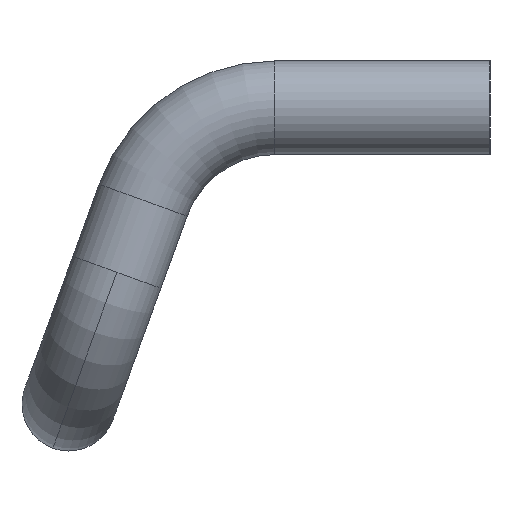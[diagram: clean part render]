
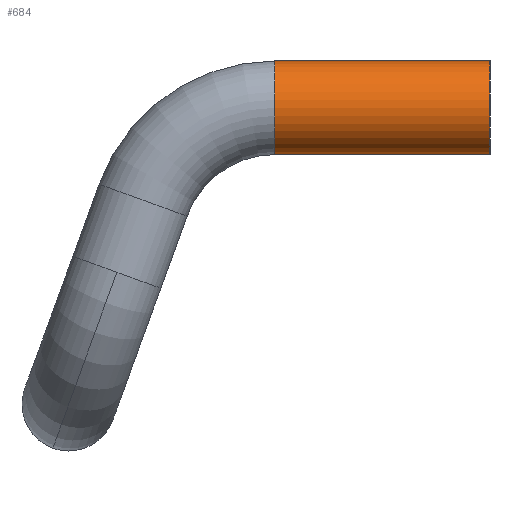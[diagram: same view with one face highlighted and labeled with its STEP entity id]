
A CAD part, left-side view. The second image highlights one B-rep face of the part: STEP entity #684.
In plain terms, the highlighted cylindrical face has radius 6 mm (diameter 12 mm), a partial arc.
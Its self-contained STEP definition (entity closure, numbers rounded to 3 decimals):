
#23 = VERTEX_POINT ( 'NONE', #172 ) ;
#32 = CARTESIAN_POINT ( 'NONE',  ( -125., 0., 6. ) ) ;
#46 = DIRECTION ( 'NONE',  ( 0., 1., 0. ) ) ;
#49 = AXIS2_PLACEMENT_3D ( 'NONE', #229, #237, #865 ) ;
#83 = AXIS2_PLACEMENT_3D ( 'NONE', #667, #410, #834 ) ;
#103 = CIRCLE ( 'NONE', #454, 6. ) ;
#157 = ORIENTED_EDGE ( 'NONE', *, *, #552, .T. ) ;
#172 = CARTESIAN_POINT ( 'NONE',  ( -125., 27.565, -6. ) ) ;
#174 = CARTESIAN_POINT ( 'NONE',  ( -125., 27.565, 6. ) ) ;
#203 = LINE ( 'NONE', #1000, #266 ) ;
#229 = CARTESIAN_POINT ( 'NONE',  ( -125., 27.565, 0. ) ) ;
#236 = EDGE_LOOP ( 'NONE', ( #503, #429, #157, #762 ) ) ;
#237 = DIRECTION ( 'NONE',  ( 0., -1., 0. ) ) ;
#240 = VERTEX_POINT ( 'NONE', #652 ) ;
#266 = VECTOR ( 'NONE', #848, 1000. ) ;
#277 = CARTESIAN_POINT ( 'NONE',  ( -125., 0., 0. ) ) ;
#390 = EDGE_CURVE ( 'NONE', #874, #785, #103, .T. ) ;
#410 = DIRECTION ( 'NONE',  ( 0., 1., 0. ) ) ;
#429 = ORIENTED_EDGE ( 'NONE', *, *, #774, .F. ) ;
#430 = LINE ( 'NONE', #174, #529 ) ;
#443 = DIRECTION ( 'NONE',  ( -0.94, 0., -0.342 ) ) ;
#454 = AXIS2_PLACEMENT_3D ( 'NONE', #277, #46, #443 ) ;
#503 = ORIENTED_EDGE ( 'NONE', *, *, #754, .F. ) ;
#529 = VECTOR ( 'NONE', #892, 1000. ) ;
#552 = EDGE_CURVE ( 'NONE', #23, #874, #203, .T. ) ;
#628 = FACE_OUTER_BOUND ( 'NONE', #236, .T. ) ;
#652 = CARTESIAN_POINT ( 'NONE',  ( -125., 27.565, 6. ) ) ;
#660 = CIRCLE ( 'NONE', #83, 6. ) ;
#667 = CARTESIAN_POINT ( 'NONE',  ( -125., 27.565, 0. ) ) ;
#684 = ADVANCED_FACE ( 'NONE', ( #628 ), #937, .T. ) ;
#754 = EDGE_CURVE ( 'NONE', #240, #785, #430, .T. ) ;
#762 = ORIENTED_EDGE ( 'NONE', *, *, #390, .T. ) ;
#774 = EDGE_CURVE ( 'NONE', #23, #240, #660, .T. ) ;
#785 = VERTEX_POINT ( 'NONE', #32 ) ;
#834 = DIRECTION ( 'NONE',  ( -0.94, 0., -0.342 ) ) ;
#848 = DIRECTION ( 'NONE',  ( 0., -1., 0. ) ) ;
#865 = DIRECTION ( 'NONE',  ( 0., 0., -1. ) ) ;
#874 = VERTEX_POINT ( 'NONE', #902 ) ;
#892 = DIRECTION ( 'NONE',  ( 0., -1., 0. ) ) ;
#902 = CARTESIAN_POINT ( 'NONE',  ( -125., 0., -6. ) ) ;
#937 = CYLINDRICAL_SURFACE ( 'NONE', #49, 6. ) ;
#1000 = CARTESIAN_POINT ( 'NONE',  ( -125., 27.565, -6. ) ) ;
